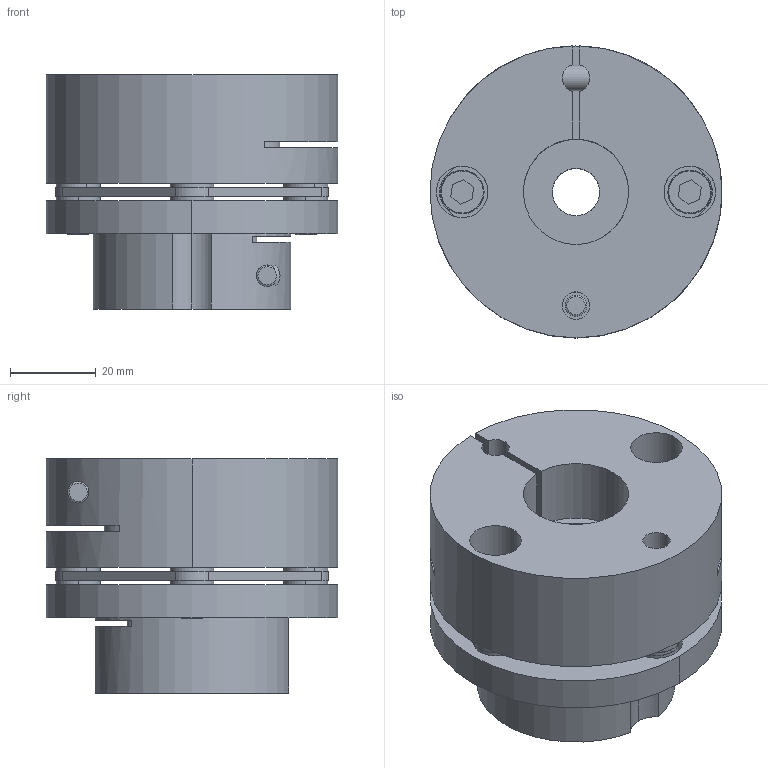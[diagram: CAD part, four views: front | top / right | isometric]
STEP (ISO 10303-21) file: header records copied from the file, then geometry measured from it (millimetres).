
FILE_DESCRIPTION (( 'STEP AP214' ), '1' );
FILE_NAME ('LC-A-060SA-11B-24.5B（B型）.STEP', '2019-09-19T02:09:20', ( 'admin' ), ( 'Microsoft' ), 'SwSTEP 2.0', 'SolidWorks 2016', '' );
FILE_SCHEMA (( 'AUTOMOTIVE_DESIGN' ));
Length unit declared in the file: millimetre
Products named in the file (1): LC-A-060SA-11B-24.5B（B型）
Bounding box: 68 x 68 x 54.5 mm (x, y, z)
Volume: 125574.8 mm3; surface area: 43247.9 mm2
Topology: 17 solids, 17 shells, 276 faces, 652 edges, 422 vertices
Faces by surface type: cylinder 131, plane 109, torus 24, cone 12
Entity records: 11689 total; most frequent: CARTESIAN_POINT 1733, DIRECTION 1522, ORIENTED_EDGE 1304, EDGE_CURVE 652, AXIS2_PLACEMENT_3D 607, VERTEX_POINT 422, EDGE_LOOP 344, CIRCLE 330
